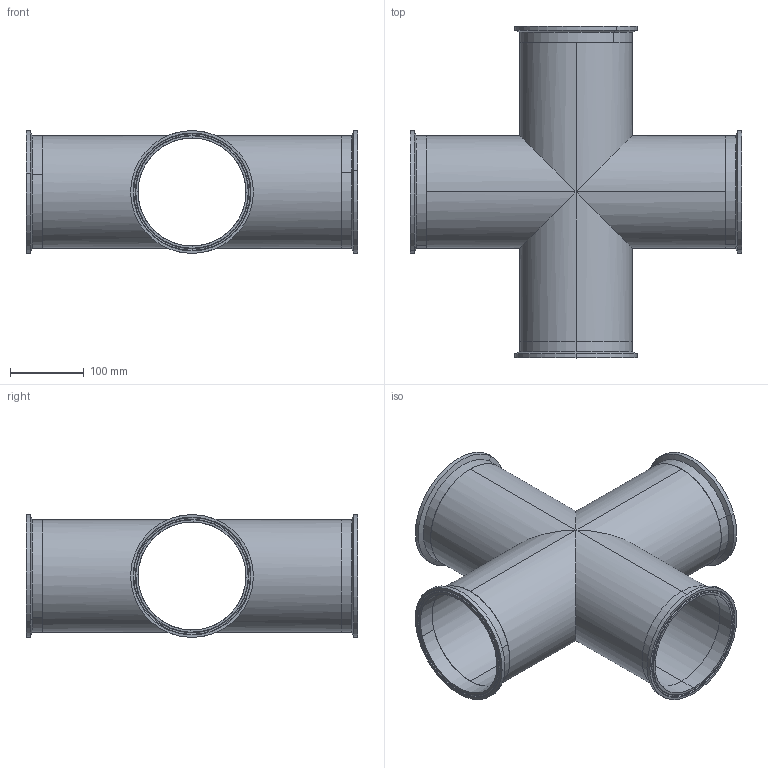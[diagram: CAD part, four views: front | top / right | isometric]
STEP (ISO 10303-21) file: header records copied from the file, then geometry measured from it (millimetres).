
FILE_DESCRIPTION (( 'STEP AP203' ), '1' );
FILE_NAME ('EG9 6.0.STEP', '2021-10-25T16:29:18', ( '' ), ( '' ), 'SwSTEP 2.0', 'SolidWorks 2021', '' );
FILE_SCHEMA (( 'CONFIG_CONTROL_DESIGN' ));
Length unit declared in the file: inch
Products named in the file (3): V9W6.0; EG2CS6.0; EG9 6.0
Assembly tree (5 placements, depth 2):
  EG9 6.0
    V9W6.0
    EG2CS6.0  x4
Bounding box: 450.85 x 450.85 x 166.88 mm (x, y, z)
Volume: 1020892.6 mm3; surface area: 712033.7 mm2
Topology: 5 solids, 5 shells, 88 faces, 176 edges, 100 vertices
Faces by surface type: cylinder 40, torus 24, plane 16, cone 8
Entity records: 1369 total; most frequent: DIRECTION 198, CARTESIAN_POINT 183, ORIENTED_EDGE 148, AXIS2_PLACEMENT_3D 87, EDGE_CURVE 74, EDGE_LOOP 44, CIRCLE 42, VERTEX_POINT 40
